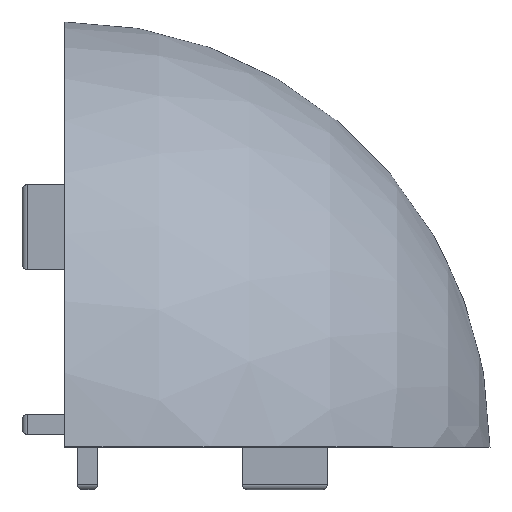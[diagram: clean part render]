
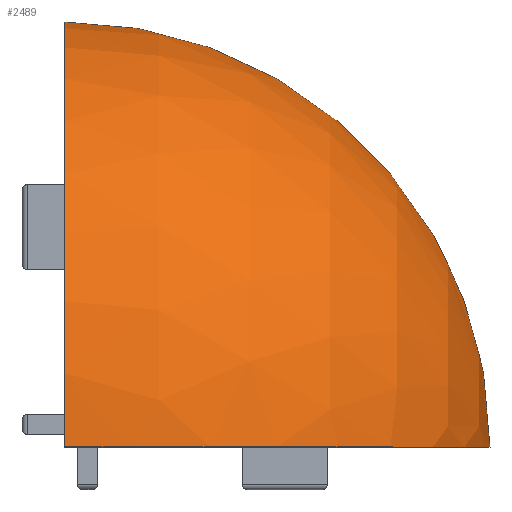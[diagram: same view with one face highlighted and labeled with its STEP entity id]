
A CAD part, top view. The second image highlights one B-rep face of the part: STEP entity #2489.
In plain terms, the highlighted spherical face has radius 40 mm.
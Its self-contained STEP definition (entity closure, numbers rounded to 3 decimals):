
#2455=CARTESIAN_POINT('',(0.,0.0,0.));
#2456=DIRECTION('',(0.707,0.,0.707));
#2457=DIRECTION('',(0.707,0.,-0.707));
#2458=AXIS2_PLACEMENT_3D('',#2455,#2456,#2457);
#2459=SPHERICAL_SURFACE('',#2458,40.);
#2460=CARTESIAN_POINT('',(0.,40.0,0.0));
#2461=VERTEX_POINT('',#2460);
#2462=CARTESIAN_POINT('',(28.284,0.,28.284));
#2463=VERTEX_POINT('',#2462);
#2464=CARTESIAN_POINT('',(0.,0.,0.));
#2465=DIRECTION('',(0.707,0.,-0.707));
#2466=DIRECTION('',(0.707,0.,0.707));
#2467=AXIS2_PLACEMENT_3D('',#2464,#2465,#2466);
#2468=CIRCLE('',#2467,40.0);
#2469=EDGE_CURVE('',#2461,#2463,#2468,.T.);
#2470=ORIENTED_EDGE('',*,*,#2469,.T.);
#2471=CARTESIAN_POINT('',(28.284,0.,-28.284));
#2472=VERTEX_POINT('',#2471);
#2473=CARTESIAN_POINT('',(0.,0.,0.));
#2474=DIRECTION('',(0.,-1.0,0.));
#2475=DIRECTION('',(0.707,0.,-0.707));
#2476=AXIS2_PLACEMENT_3D('',#2473,#2474,#2475);
#2477=CIRCLE('',#2476,40.);
#2478=EDGE_CURVE('',#2472,#2463,#2477,.T.);
#2479=ORIENTED_EDGE('',*,*,#2478,.F.);
#2480=CARTESIAN_POINT('',(0.,0.0,0.));
#2481=DIRECTION('',(0.707,0.,0.707));
#2482=DIRECTION('',(0.707,0.,-0.707));
#2483=AXIS2_PLACEMENT_3D('',#2480,#2481,#2482);
#2484=CIRCLE('',#2483,40.0);
#2485=EDGE_CURVE('',#2472,#2461,#2484,.T.);
#2486=ORIENTED_EDGE('',*,*,#2485,.T.);
#2487=EDGE_LOOP('',(#2470,#2479,#2486));
#2488=FACE_OUTER_BOUND('',#2487,.T.);
#2489=ADVANCED_FACE('',(#2488),#2459,.T.);
